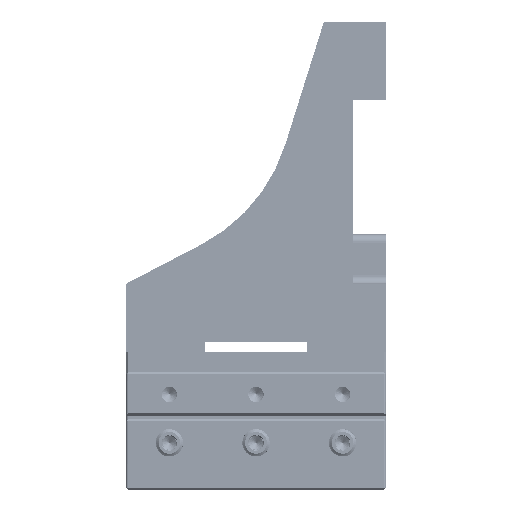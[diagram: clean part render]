
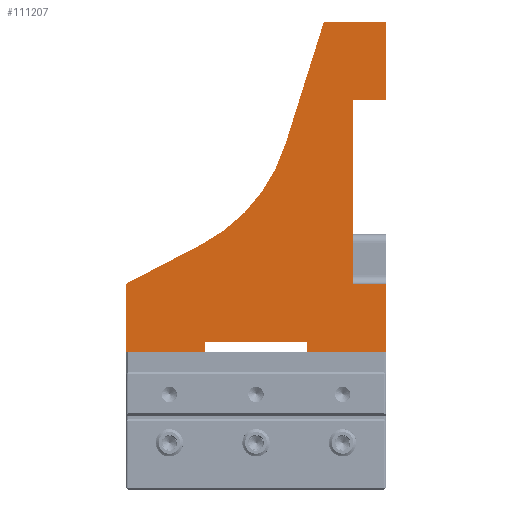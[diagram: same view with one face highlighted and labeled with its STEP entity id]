
A CAD part, left-side view. The second image highlights one B-rep face of the part: STEP entity #111207.
In plain terms, the highlighted planar face has unit normal (-1, 0, 0).
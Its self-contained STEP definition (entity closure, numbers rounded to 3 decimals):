
#98690=DIRECTION('',(0.,0.887,-0.462));
#98691=VECTOR('',#98690,24.944);
#98692=CARTESIAN_POINT('',(-76.2,-22.119,
25.561));
#98693=LINE('',#98692,#98691);
#98694=DIRECTION('',(0.,0.3,-0.954));
#98695=VECTOR('',#98694,37.651);
#98696=CARTESIAN_POINT('',(-76.2,-58.003,90.805));
#98697=LINE('',#98696,#98695);
#98698=DIRECTION('',(0.,1.,0.));
#98699=VECTOR('',#98698,18.197);
#98700=CARTESIAN_POINT('',(-76.2,-76.2,90.805));
#98701=LINE('',#98700,#98699);
#98702=DIRECTION('',(0.,0.,1.));
#98703=VECTOR('',#98702,22.83);
#98704=CARTESIAN_POINT('',(-76.2,-76.2,67.975));
#98705=LINE('',#98704,#98703);
#98706=DIRECTION('',(0.,-1.,0.));
#98707=VECTOR('',#98706,9.525);
#98708=CARTESIAN_POINT('',(-76.2,-66.675,67.975));
#98709=LINE('',#98708,#98707);
#98710=DIRECTION('',(0.,1.,0.));
#98711=VECTOR('',#98710,9.525);
#98712=CARTESIAN_POINT('',(-76.2,-76.2,14.031));
#98713=LINE('',#98712,#98711);
#98714=DIRECTION('',(0.,0.,1.));
#98715=VECTOR('',#98714,20.);
#98716=CARTESIAN_POINT('',(-76.2,-76.2,-5.969));
#98717=LINE('',#98716,#98715);
#98718=DIRECTION('',(0.,-1.,0.));
#98719=VECTOR('',#98718,23.1);
#98720=CARTESIAN_POINT('',(-76.2,-53.1,-5.969));
#98721=LINE('',#98720,#98719);
#98722=DIRECTION('',(0.,0.,1.));
#98723=VECTOR('',#98722,3.);
#98724=CARTESIAN_POINT('',(-76.2,-53.1,-5.969));
#98725=LINE('',#98724,#98723);
#98726=DIRECTION('',(0.,-1.,0.));
#98727=VECTOR('',#98726,30.);
#98728=CARTESIAN_POINT('',(-76.2,-23.1,-2.969));
#98729=LINE('',#98728,#98727);
#98730=DIRECTION('',(0.,0.,1.));
#98731=VECTOR('',#98730,3.);
#98732=CARTESIAN_POINT('',(-76.2,-23.1,-5.969));
#98733=LINE('',#98732,#98731);
#98734=DIRECTION('',(0.,-1.,0.));
#98735=VECTOR('',#98734,23.1);
#98736=CARTESIAN_POINT('',(-76.2,0.,-5.969));
#98737=LINE('',#98736,#98735);
#98738=DIRECTION('',(0.,0.,-1.));
#98739=VECTOR('',#98738,20.);
#98740=CARTESIAN_POINT('',(-76.2,0.,14.031));
#98741=LINE('',#98740,#98739);
#98742=CARTESIAN_POINT('',(-76.2,0.993,
69.899));
#98743=DIRECTION('',(1.,0.,0.));
#98744=DIRECTION('',(0.,-0.954,-0.3));
#98745=AXIS2_PLACEMENT_3D('',#98742,#98743,#98744);
#98971=DIRECTION('',(0.,0.,1.));
#98972=VECTOR('',#98971,53.944);
#98973=CARTESIAN_POINT('',(-76.2,-66.675,14.031));
#98974=LINE('',#98973,#98972);
#109705=CARTESIAN_POINT('',(-76.2,-76.2,90.805));
#109706=VERTEX_POINT('',#109705);
#109723=CARTESIAN_POINT('',(-76.2,-76.2,67.975));
#109724=VERTEX_POINT('',#109723);
#109729=CARTESIAN_POINT('',(-76.2,-66.675,67.975));
#109730=VERTEX_POINT('',#109729);
#110231=CARTESIAN_POINT('',(-76.2,-76.2,14.031));
#110232=CARTESIAN_POINT('',(-76.2,-66.675,14.031));
#110233=VERTEX_POINT('',#110231);
#110234=VERTEX_POINT('',#110232);
#110239=CARTESIAN_POINT('',(-76.2,-76.2,-5.969));
#110240=VERTEX_POINT('',#110239);
#110283=CARTESIAN_POINT('',(-76.2,-23.1,-2.969));
#110284=CARTESIAN_POINT('',(-76.2,-53.1,-2.969));
#110285=VERTEX_POINT('',#110283);
#110286=VERTEX_POINT('',#110284);
#110287=CARTESIAN_POINT('',(-76.2,-53.1,-5.969));
#110288=VERTEX_POINT('',#110287);
#110289=CARTESIAN_POINT('',(-76.2,-23.1,-5.969));
#110290=VERTEX_POINT('',#110289);
#110309=CARTESIAN_POINT('',(-76.2,0.,-5.969));
#110310=VERTEX_POINT('',#110309);
#110355=CARTESIAN_POINT('',(-76.2,0.,14.031));
#110357=VERTEX_POINT('',#110355);
#110367=CARTESIAN_POINT('',(-76.2,-58.003,90.805));
#110368=VERTEX_POINT('',#110367);
#110380=CARTESIAN_POINT('',(-76.2,-22.119,
25.561));
#110382=VERTEX_POINT('',#110380);
#110383=CARTESIAN_POINT('',(-76.2,-46.701,
54.89));
#110384=VERTEX_POINT('',#110383);
#111178=CARTESIAN_POINT('',(-76.2,0.,28.575));
#111179=DIRECTION('',(1.,0.,0.));
#111180=DIRECTION('',(0.,0.,1.));
#111181=AXIS2_PLACEMENT_3D('',#111178,#111179,#111180);
#111182=PLANE('',#111181);
#111183=ORIENTED_EDGE('',*,*,#110689,.F.);
#111185=ORIENTED_EDGE('',*,*,#111184,.F.);
#111186=ORIENTED_EDGE('',*,*,#110522,.F.);
#111187=ORIENTED_EDGE('',*,*,#110505,.F.);
#111189=ORIENTED_EDGE('',*,*,#111188,.F.);
#111191=ORIENTED_EDGE('',*,*,#111190,.F.);
#111193=ORIENTED_EDGE('',*,*,#111192,.F.);
#111195=ORIENTED_EDGE('',*,*,#111194,.F.);
#111197=ORIENTED_EDGE('',*,*,#111196,.F.);
#111198=ORIENTED_EDGE('',*,*,#110871,.F.);
#111200=ORIENTED_EDGE('',*,*,#111199,.T.);
#111201=ORIENTED_EDGE('',*,*,#111113,.F.);
#111202=ORIENTED_EDGE('',*,*,#111172,.F.);
#111203=ORIENTED_EDGE('',*,*,#110843,.F.);
#111204=ORIENTED_EDGE('',*,*,#110641,.F.);
#111205=EDGE_LOOP('',(#111183,#111185,#111186,#111187,#111189,#111191,#111193,
#111195,#111197,#111198,#111200,#111201,#111202,#111203,#111204));
#111206=FACE_OUTER_BOUND('',#111205,.F.);
#111207=ADVANCED_FACE('',(#111206),#111182,.F.);
#98746=CIRCLE('',#98745,50.);
#110505=EDGE_CURVE('',#109706,#110368,#98701,.T.);
#110522=EDGE_CURVE('',#110368,#110384,#98697,.T.);
#110641=EDGE_CURVE('',#110357,#110310,#98741,.T.);
#110689=EDGE_CURVE('',#110382,#110357,#98693,.T.);
#110843=EDGE_CURVE('',#110310,#110290,#98737,.T.);
#110871=EDGE_CURVE('',#110288,#110240,#98721,.T.);
#111113=EDGE_CURVE('',#110285,#110286,#98729,.T.);
#111172=EDGE_CURVE('',#110290,#110285,#98733,.T.);
#111184=EDGE_CURVE('',#110384,#110382,#98746,.T.);
#111188=EDGE_CURVE('',#109724,#109706,#98705,.T.);
#111190=EDGE_CURVE('',#109730,#109724,#98709,.T.);
#111192=EDGE_CURVE('',#110234,#109730,#98974,.T.);
#111194=EDGE_CURVE('',#110233,#110234,#98713,.T.);
#111196=EDGE_CURVE('',#110240,#110233,#98717,.T.);
#111199=EDGE_CURVE('',#110288,#110286,#98725,.T.);
